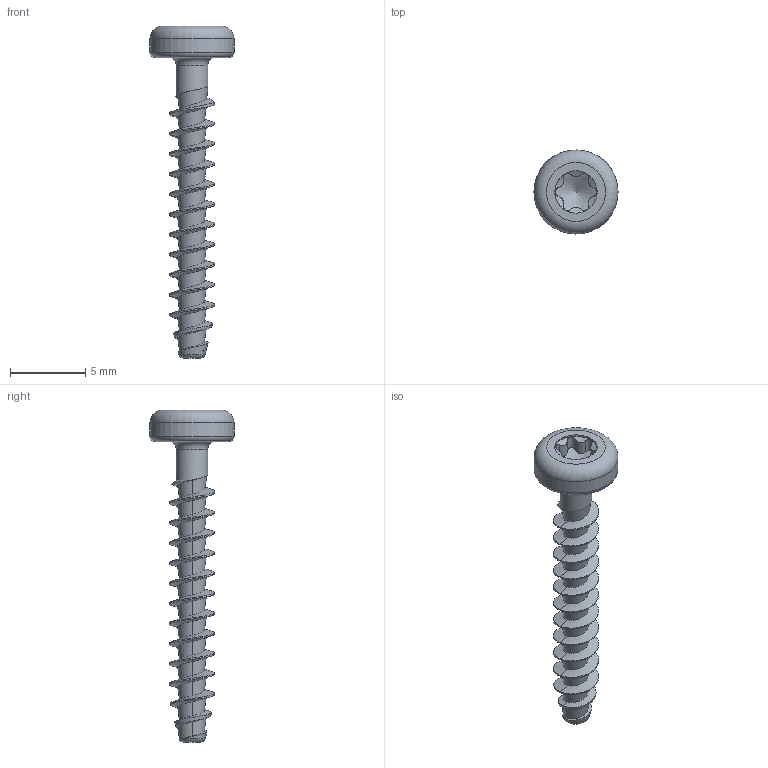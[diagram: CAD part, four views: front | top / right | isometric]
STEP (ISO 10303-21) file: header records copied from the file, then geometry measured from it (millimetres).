
FILE_DESCRIPTION(/* description */ (''),/* implementation_level */ '2;1');
FILE_NAME(/* name */ 'KN1039-STS-30x20-T10.step',/* time_stamp */ '2017-10-17T13:29:57+02:00',/* author */ (''),/* organization */ (''),/* preprocessor_version */ 'ST-DEVELOPER v16',/* originating_system */ 'SIEMENS PLM Software NX 10.0',/* authorisation */ '');
FILE_SCHEMA (('AUTOMOTIVE_DESIGN { 1 0 10303 214 3 1 1 1 }'));
Length unit declared in the file: millimetre
Products named in the file (1): KN1039-STS-30x20-T10
Bounding box: 5.6 x 5.6 x 22.1 mm (x, y, z)
Volume: 107.8 mm3; surface area: 293.6 mm2
Topology: 1 solids, 1 shells, 70 faces, 171 edges, 104 vertices
Faces by surface type: bspline 42, cylinder 17, cone 4, torus 4, plane 3
Full cylindrical faces by diameter (mm): 2.12 x1, 2.82 x1, 5.6 x1
Entity records: 4876 total; most frequent: CARTESIAN_POINT 3611, ORIENTED_EDGE 308, EDGE_CURVE 154, DIRECTION 133, VERTEX_POINT 98, B_SPLINE_CURVE_WITH_KNOTS 90, EDGE_LOOP 79, ADVANCED_FACE 69
